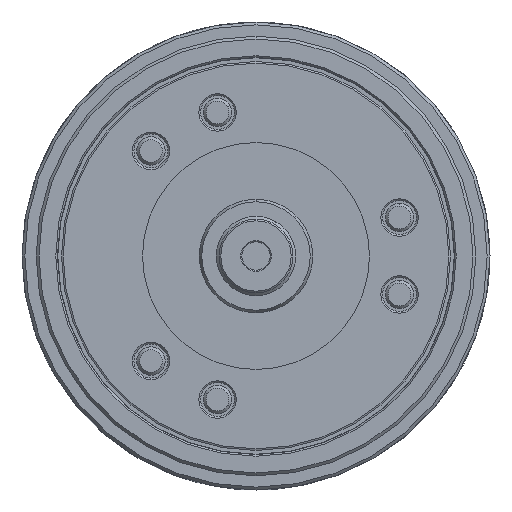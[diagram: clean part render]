
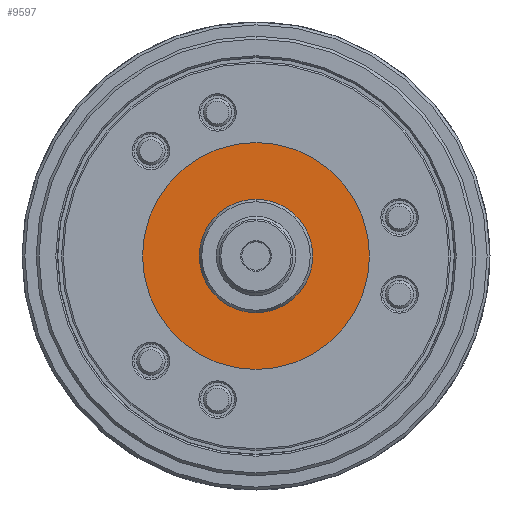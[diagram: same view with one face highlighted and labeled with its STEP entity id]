
A CAD part, left-side view. The second image highlights one B-rep face of the part: STEP entity #9597.
In plain terms, the highlighted planar face has unit normal (-1, 0, 0).
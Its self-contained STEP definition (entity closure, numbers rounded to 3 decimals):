
#1921 = EDGE_LOOP ( 'NONE', ( #12336, #3863 ) ) ;
#2659 = DIRECTION ( 'NONE',  ( 1., 0., 0. ) ) ;
#3216 = VERTEX_POINT ( 'NONE', #29085 ) ;
#3863 = ORIENTED_EDGE ( 'NONE', *, *, #12150, .T. ) ;
#4023 = VERTEX_POINT ( 'NONE', #33539 ) ;
#5106 = CIRCLE ( 'NONE', #25881, 40. ) ;
#6396 = CARTESIAN_POINT ( 'NONE',  ( -71.3, 0., 0. ) ) ;
#8192 = AXIS2_PLACEMENT_3D ( 'NONE', #11191, #16281, #31498 ) ;
#8360 = FACE_BOUND ( 'NONE', #1921, .T. ) ;
#8852 = EDGE_CURVE ( 'NONE', #3216, #27805, #26803, .T. ) ;
#9113 = EDGE_LOOP ( 'NONE', ( #11924, #25955 ) ) ;
#9597 = ADVANCED_FACE ( 'NONE', ( #8360, #36845 ), #14475, .F. ) ;
#9802 = AXIS2_PLACEMENT_3D ( 'NONE', #32028, #11530, #28655 ) ;
#10585 = VERTEX_POINT ( 'NONE', #23191 ) ;
#11191 = CARTESIAN_POINT ( 'NONE',  ( -71.3, 0., 0. ) ) ;
#11530 = DIRECTION ( 'NONE',  ( 1., 0., 0. ) ) ;
#11924 = ORIENTED_EDGE ( 'NONE', *, *, #8852, .F. ) ;
#11957 = DIRECTION ( 'NONE',  ( 0., -0.5, -0.866 ) ) ;
#12150 = EDGE_CURVE ( 'NONE', #10585, #4023, #25822, .T. ) ;
#12336 = ORIENTED_EDGE ( 'NONE', *, *, #31759, .T. ) ;
#14475 = PLANE ( 'NONE',  #25658 ) ;
#15542 = DIRECTION ( 'NONE',  ( 1., 0., 0. ) ) ;
#16281 = DIRECTION ( 'NONE',  ( 1., 0., 0. ) ) ;
#17255 = CARTESIAN_POINT ( 'NONE',  ( -71.3, 20., 34.641 ) ) ;
#19095 = AXIS2_PLACEMENT_3D ( 'NONE', #6396, #2659, #11957 ) ;
#22659 = DIRECTION ( 'NONE',  ( 1., 0., 0. ) ) ;
#23191 = CARTESIAN_POINT ( 'NONE',  ( -71.3, 0., 20. ) ) ;
#25658 = AXIS2_PLACEMENT_3D ( 'NONE', #17255, #22659, #31074 ) ;
#25822 = CIRCLE ( 'NONE', #9802, 20. ) ;
#25881 = AXIS2_PLACEMENT_3D ( 'NONE', #27627, #15542, #36023 ) ;
#25955 = ORIENTED_EDGE ( 'NONE', *, *, #33686, .F. ) ;
#26803 = CIRCLE ( 'NONE', #19095, 40. ) ;
#27627 = CARTESIAN_POINT ( 'NONE',  ( -71.3, 0., 0. ) ) ;
#27805 = VERTEX_POINT ( 'NONE', #28042 ) ;
#28042 = CARTESIAN_POINT ( 'NONE',  ( -71.3, 20., 34.641 ) ) ;
#28655 = DIRECTION ( 'NONE',  ( 0., -0.5, -0.866 ) ) ;
#29085 = CARTESIAN_POINT ( 'NONE',  ( -71.3, -20., -34.641 ) ) ;
#31074 = DIRECTION ( 'NONE',  ( 0., -0.5, -0.866 ) ) ;
#31498 = DIRECTION ( 'NONE',  ( 0., -0.5, -0.866 ) ) ;
#31759 = EDGE_CURVE ( 'NONE', #4023, #10585, #32554, .T. ) ;
#32028 = CARTESIAN_POINT ( 'NONE',  ( -71.3, 0., 0. ) ) ;
#32554 = CIRCLE ( 'NONE', #8192, 20. ) ;
#33539 = CARTESIAN_POINT ( 'NONE',  ( -71.3, 0., -20. ) ) ;
#33686 = EDGE_CURVE ( 'NONE', #27805, #3216, #5106, .T. ) ;
#36023 = DIRECTION ( 'NONE',  ( 0., -0.5, -0.866 ) ) ;
#36845 = FACE_OUTER_BOUND ( 'NONE', #9113, .T. ) ;
